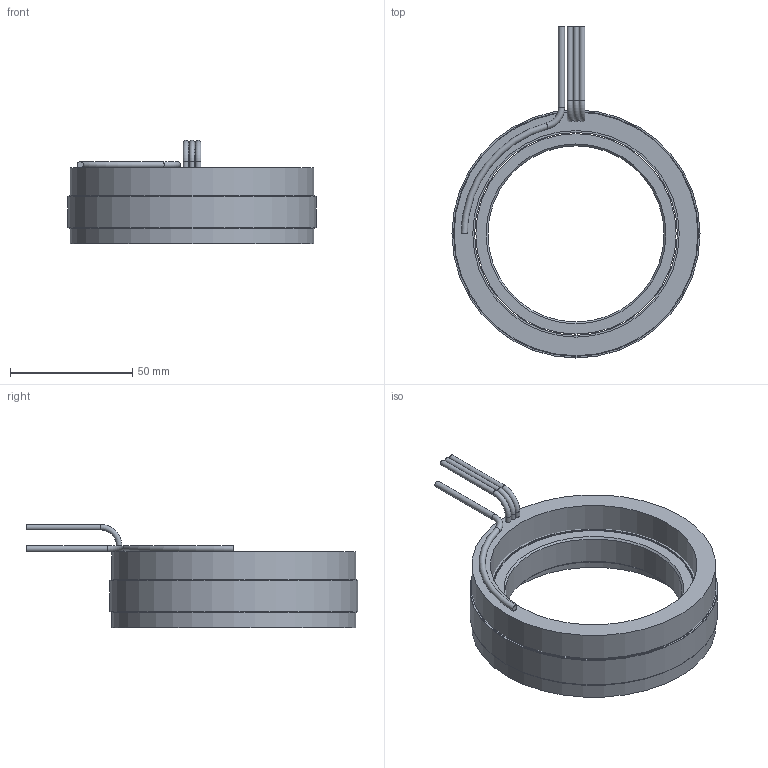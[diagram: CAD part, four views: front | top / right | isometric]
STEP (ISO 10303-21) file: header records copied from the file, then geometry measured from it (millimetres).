
FILE_DESCRIPTION (( 'STEP AP214' ), '1' );
FILE_NAME ('6100395-01.STEP', '2020-12-15T17:33:08', ( '' ), ( '' ), 'SwSTEP 2.0', 'SolidWorks 2016', '' );
FILE_SCHEMA (( 'AUTOMOTIVE_DESIGN' ));
Length unit declared in the file: inch
Products named in the file (10): 6100395-01; 4250383-XX_4250383-01; 4450192-XX_4450192-01; COMP4500561-XX(COIL)_COMP4500561-01(COIL); 4400104-00; 4150181-XX_4150181-01; 4500561-XX_4500561-01; 4600568-00
Assembly tree (10 placements, depth 4):
  6100395-01
    4250383-XX_4250383-01
      4150181-XX_4150181-01
    4500561-XX_4500561-01
      4450192-XX_4450192-01
        4450192-XX_4450192-01
        4400104-00
        4400104-00
        4600568-00  x2
      COMP4500561-XX(COIL)_COMP4500561-01(COIL)
Bounding box: 101.6 x 135.89 x 42.29 mm (x, y, z)
Volume: 119993.4 mm3; surface area: 66266.1 mm2
Topology: 8 solids, 8 shells, 47 faces, 74 edges, 46 vertices
Faces by surface type: cylinder 21, plane 19, torus 5, cone 2
Full cylindrical faces by diameter (mm): 2.286 x6, 2.54 x1, 72.136 x1, 82.042 x1, 83.058 x5, 84.582 x1, 99.822 x1, 100.33 x2, 101.6 x3
Entity records: 1305 total; most frequent: DIRECTION 202, CARTESIAN_POINT 143, AXIS2_PLACEMENT_3D 101, EDGE_LOOP 84, ORIENTED_EDGE 84, FACE_OUTER_BOUND 67, ADVANCED_FACE 43, CIRCLE 42
